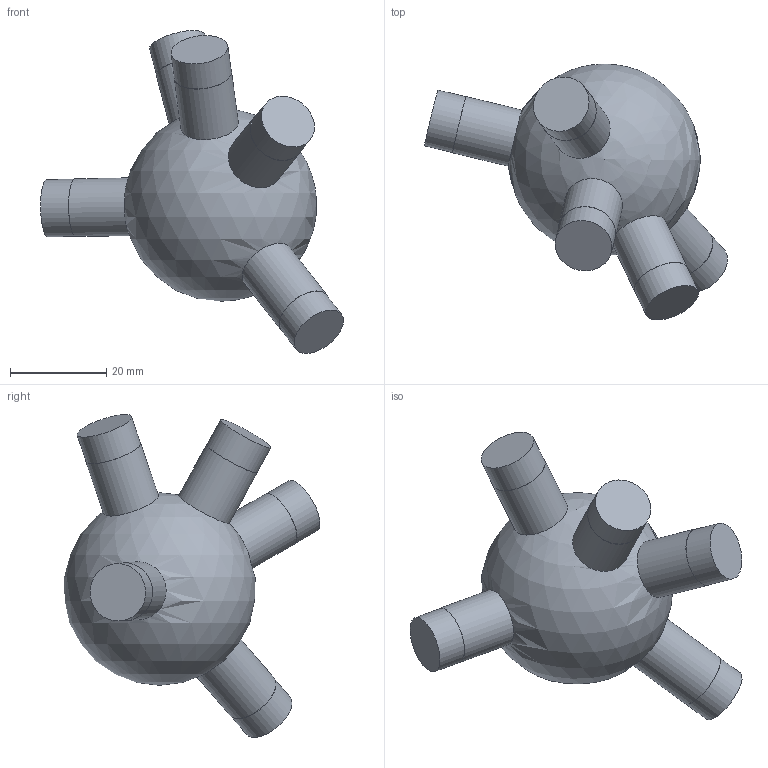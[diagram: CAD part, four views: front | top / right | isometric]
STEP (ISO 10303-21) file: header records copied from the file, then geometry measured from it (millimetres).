
FILE_DESCRIPTION(('Open CASCADE Model'),'2;1');
FILE_NAME('Open CASCADE Shape Model','2026-10-21T12:47:57',('Author'),( 'Open CASCADE'),'Open CASCADE STEP processor 7.9','Open CASCADE 7.9' ,'Unknown');
FILE_SCHEMA(('AUTOMOTIVE_DESIGN { 1 0 10303 214 1 1 1 1 }'));
Length unit declared in the file: millimetre
Products named in the file (1): Open CASCADE STEP translator 7.9 65
Bounding box: 62.93 x 53.18 x 67.06 mm (x, y, z)
Volume: 43722.9 mm3; surface area: 8514.3 mm2
Topology: 1 solids, 1 shells, 21 faces, 33 edges, 22 vertices
Faces by surface type: cylinder 10, plane 10, sphere 1
Full cylindrical faces by diameter (mm): 11.9 x5, 12 x5
Entity records: 1255 total; most frequent: CARTESIAN_POINT 530, DIRECTION 149, ORIENTED_EDGE 60, PCURVE 60, DEFINITIONAL_REPRESENTATION 60, LINE 50, VECTOR 50, AXIS2_PLACEMENT_3D 42
